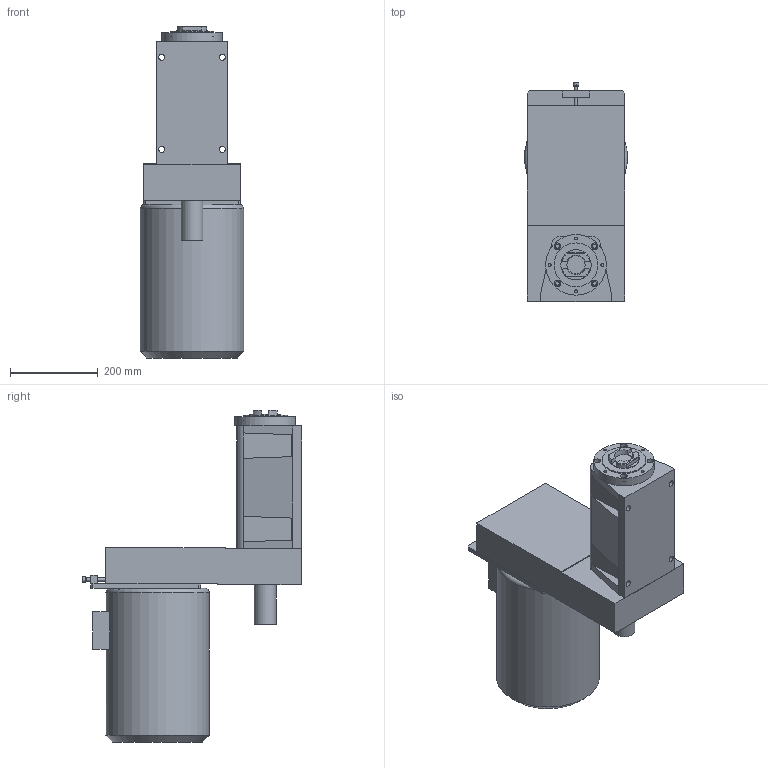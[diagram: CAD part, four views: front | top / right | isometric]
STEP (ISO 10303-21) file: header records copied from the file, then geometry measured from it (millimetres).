
FILE_DESCRIPTION((''),'2;1');
FILE_NAME('C:\VaultWork\Zeichnungen\Maßblätter\Maßblatt BF4-SK40 Z-Laterne\BF01494-3-1 Maßblatt BF4-Sk40 Z-Laterne mit Dreheinführung.stp','2010-07-08T15:03:47',('Test'),(''),'Autodesk Inventor 2008','Autodesk Inventor 2008','');
FILE_SCHEMA(('AUTOMOTIVE_DESIGN { 1 0 10303 214 1 1 1 1 }'));
Length unit declared in the file: millimetre
Products named in the file (1): BF01494-3-1 Maßblatt BF4-Sk40 Z-Laterne mit Dreheinführung
Bounding box: 235 x 499 x 756.2 mm (x, y, z)
Volume: 29804542.9 mm3; surface area: 842040 mm2
Topology: 1 solids, 2 shells, 155 faces, 377 edges, 242 vertices
Faces by surface type: plane 81, bspline 39, cylinder 23, cone 10, torus 2
Full cylindrical faces by diameter (mm): 8 x2, 13 x1, 50 x1, 69 x2, 100 x1, 138 x1, 235 x1
Entity records: 4759 total; most frequent: CARTESIAN_POINT 1214, DIRECTION 653, ORIENTED_EDGE 648, EDGE_CURVE 324, EDGE_LOOP 235, AXIS2_PLACEMENT_3D 231, VERTEX_POINT 229, VECTOR 191
